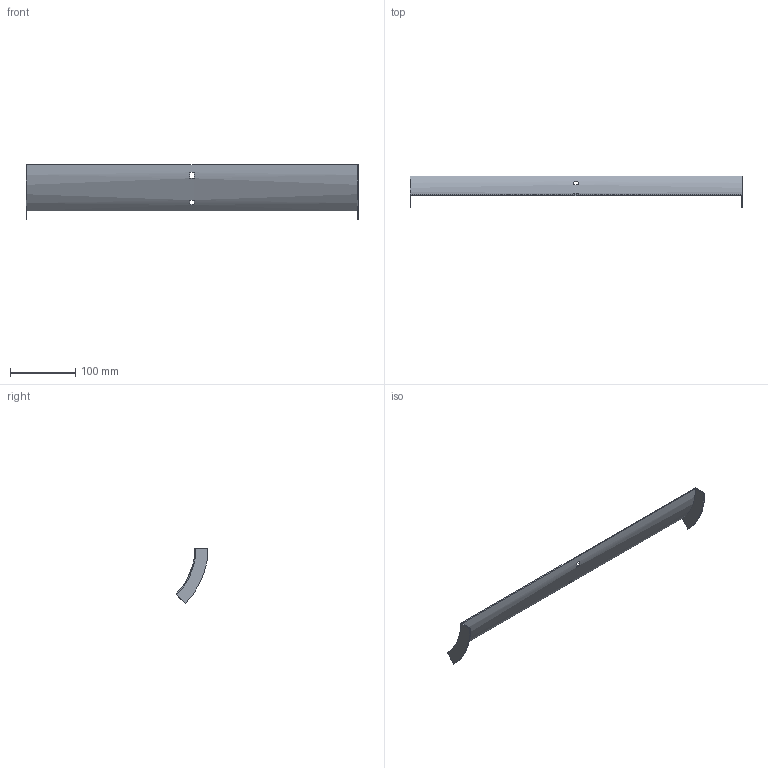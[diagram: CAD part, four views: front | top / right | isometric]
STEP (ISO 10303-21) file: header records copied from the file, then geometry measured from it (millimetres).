
FILE_DESCRIPTION (( 'STEP AP214' ), '1' );
FILE_NAME ('31N1R500.step', '2025-02-21T09:23:18', ( '' ), ( '' ), 'SwSTEP 2.0', 'SolidWorks 2023', '' );
FILE_SCHEMA (( 'AUTOMOTIVE_DESIGN' ));
Length unit declared in the file: millimetre
Products named in the file (1): 31N1R500
Bounding box: 507 x 48.85 x 83.79 mm (x, y, z)
Volume: 63865.7 mm3; surface area: 87158.1 mm2
Topology: 1 solids, 1 shells, 18 faces, 48 edges, 32 vertices
Faces by surface type: plane 14, cylinder 4
Entity records: 599 total; most frequent: DIRECTION 102, CARTESIAN_POINT 99, ORIENTED_EDGE 96, EDGE_CURVE 48, AXIS2_PLACEMENT_3D 35, LINE 32, VERTEX_POINT 32, VECTOR 32
